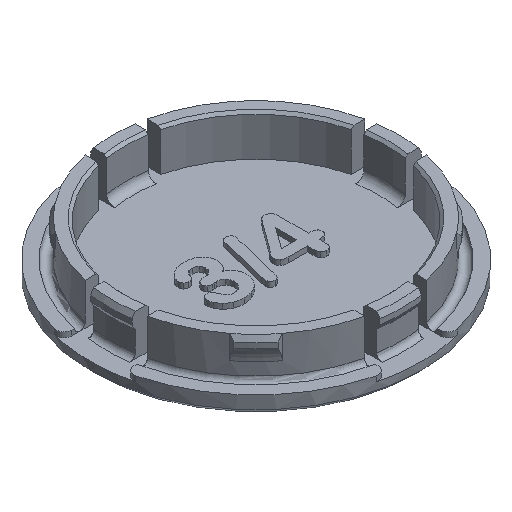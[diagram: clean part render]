
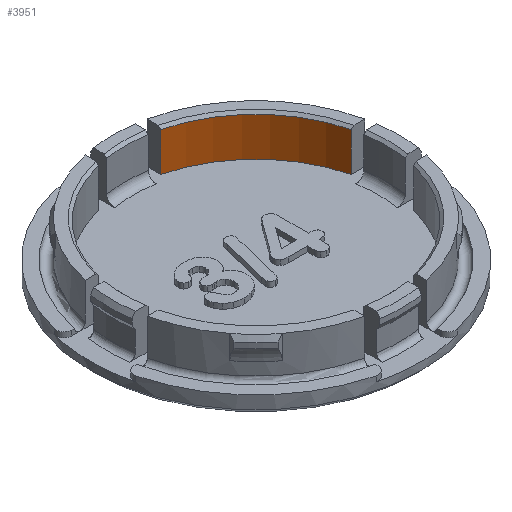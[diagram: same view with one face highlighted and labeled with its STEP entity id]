
A CAD part, isometric view. The second image highlights one B-rep face of the part: STEP entity #3951.
In plain terms, the highlighted cylindrical face has radius 12.55 mm (diameter 25.1 mm), a partial arc.
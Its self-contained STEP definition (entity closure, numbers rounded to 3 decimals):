
#161=CIRCLE('',#4056,12.55);
#210=CIRCLE('',#4130,12.55);
#268=CYLINDRICAL_SURFACE('',#4201,12.55);
#470=FACE_OUTER_BOUND('',#696,.T.);
#696=EDGE_LOOP('',(#3560,#3561,#3562,#3563));
#1137=LINE('',#7549,#1383);
#1157=LINE('',#7740,#1403);
#1383=VECTOR('',#4737,10.);
#1403=VECTOR('',#4833,10.);
#1716=VERTEX_POINT('',#7115);
#1717=VERTEX_POINT('',#7117);
#1824=VERTEX_POINT('',#7532);
#1827=VERTEX_POINT('',#7539);
#2222=EDGE_CURVE('',#1717,#1716,#161,.T.);
#2365=EDGE_CURVE('',#1827,#1824,#210,.T.);
#2369=EDGE_CURVE('',#1716,#1824,#1137,.T.);
#2416=EDGE_CURVE('',#1827,#1717,#1157,.T.);
#3560=ORIENTED_EDGE('',*,*,#2365,.F.);
#3561=ORIENTED_EDGE('',*,*,#2416,.T.);
#3562=ORIENTED_EDGE('',*,*,#2222,.T.);
#3563=ORIENTED_EDGE('',*,*,#2369,.T.);
#3951=ADVANCED_FACE('',(#470),#268,.F.);
#4056=AXIS2_PLACEMENT_3D('',#7118,#4520,#4521);
#4130=AXIS2_PLACEMENT_3D('',#7543,#4727,#4728);
#4201=AXIS2_PLACEMENT_3D('',#7939,#4908,#4909);
#4520=DIRECTION('center_axis',(0.,0.,-1.));
#4521=DIRECTION('ref_axis',(1.,0.,0.));
#4727=DIRECTION('center_axis',(0.,0.,-1.));
#4728=DIRECTION('ref_axis',(0.,1.,0.));
#4737=DIRECTION('',(0.,0.,1.));
#4833=DIRECTION('',(0.,0.,-1.));
#4908=DIRECTION('center_axis',(0.,0.,-1.));
#4909=DIRECTION('ref_axis',(0.,1.,0.));
#7115=CARTESIAN_POINT('',(12.186,3.,1.25));
#7117=CARTESIAN_POINT('',(3.,12.186,1.25));
#7118=CARTESIAN_POINT('Origin',(0.,0.,1.25));
#7532=CARTESIAN_POINT('',(12.186,3.,5.));
#7539=CARTESIAN_POINT('',(3.,12.186,5.));
#7543=CARTESIAN_POINT('Origin',(0.,0.,5.));
#7549=CARTESIAN_POINT('',(12.186,3.,3.25));
#7740=CARTESIAN_POINT('',(3.,12.186,3.25));
#7939=CARTESIAN_POINT('Origin',(0.,0.,3.25));
